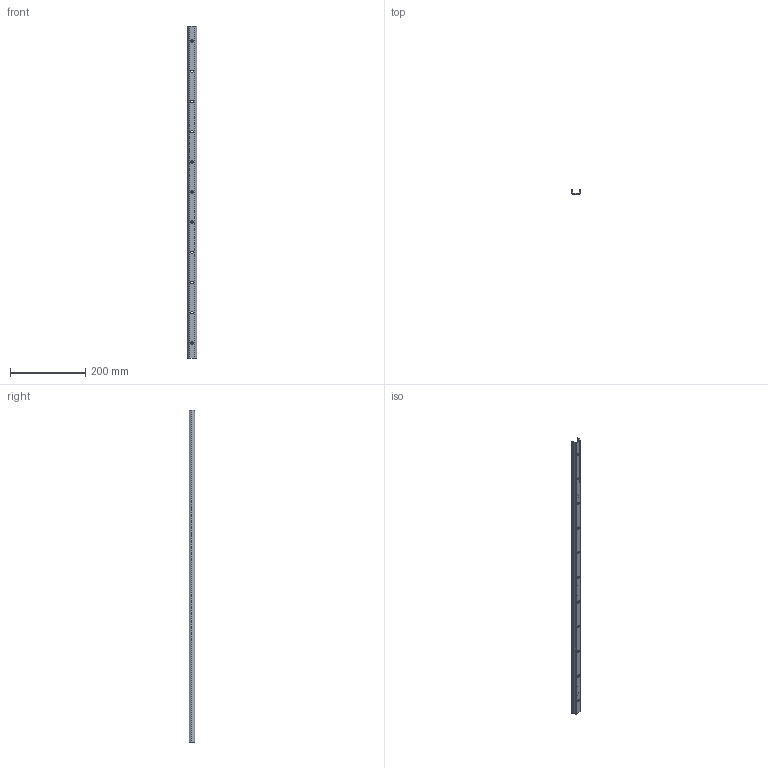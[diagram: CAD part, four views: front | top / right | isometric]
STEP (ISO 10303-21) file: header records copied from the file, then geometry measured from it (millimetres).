
FILE_DESCRIPTION(('STEP AP214'),'1');
FILE_NAME('rail_tex26-880.stp','2019-03-08T08:28:49',('TraceParts'),('TraceParts S.A.'),'Spatial InterOp 3D',' ',' ');
FILE_SCHEMA(('automotive_design'));
Length unit declared in the file: millimetre
Products named in the file (1): rail_tex26-880
Bounding box: 26.06 x 14 x 880 mm (x, y, z)
Volume: 91097.5 mm3; surface area: 77726 mm2
Topology: 1 solids, 1 shells, 219 faces, 570 edges, 380 vertices
Faces by surface type: plane 152, cylinder 34, bspline 33
Entity records: 13523 total; most frequent: CARTESIAN_POINT 6471, ORIENTED_EDGE 1140, DIRECTION 946, EDGE_CURVE 570, LINE 436, VECTOR 436, VERTEX_POINT 380, EDGE_LOOP 268
